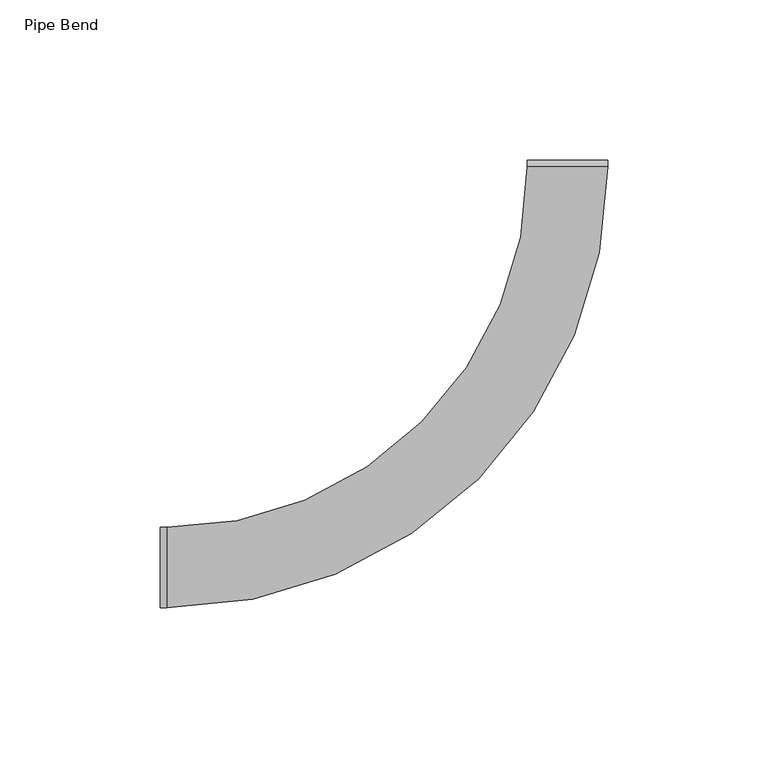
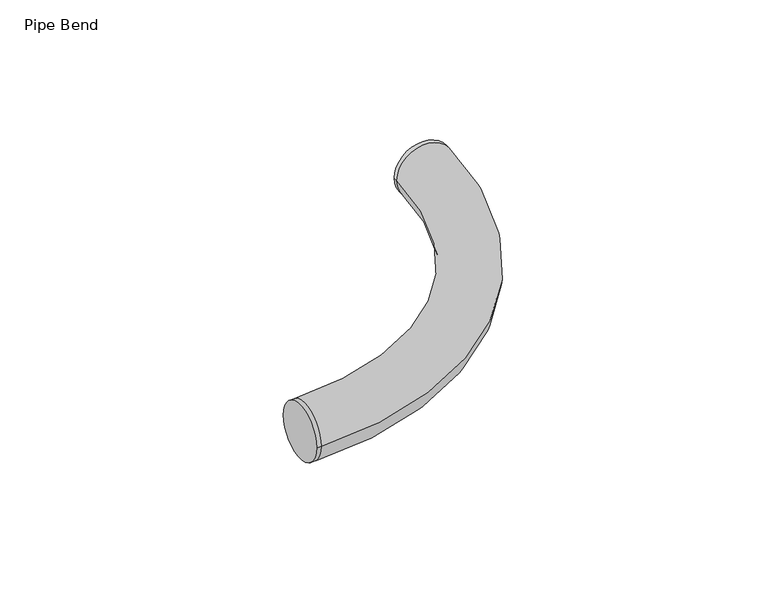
"""IFC4 building model written with IfcOpenShell, lengths in millimetres: pipe fitting geometry, Pipe Bend : Superpipe 2-MAX Pipe bend."""

from ifc_helpers import new_model, si_unit, point, frame, origin, place, context, project, spatial, circle_curve, ellipse_curve, trimmed, source, transform, mapped, element, save
from ifc_brep_helpers import plane_surface, cylinder_surface, revolved_surface, advanced_brep


def pipe_bend_f4e2ce4f(model_context):
    return source(origin(), model_context, "Body", "AdvancedBrep", [
        advanced_brep(
        [(-127.0, -12.5, 0.0), (-127.0, 12.5, 0.0), (-125.0, -12.5, 0.0), (-125.0, 12.5, 0.0), (-12.5, 125.0, 0.0), (12.5, 125.0, 0.0), (0.0, 125.0, 12.5), (0.0, 125.0, -12.5), (12.5, 127.0, 0.0), (-12.5, 127.0, 0.0)],
        [
            (0, 1, circle_curve(frame((-127.0, 0.0, 0.0), z_axis=(-1.0, 0.0, 0.0), x_axis=(0.0, 1.0, 0.0)), 12.5)),
            (1, 0, circle_curve(frame((-127.0, 0.0, 0.0), z_axis=(-1.0, 0.0, 0.0), x_axis=(0.0, 1.0, 0.0)), 12.5)),
            (0, 2),
            (2, 3, circle_curve(frame((-125.0, 0.0, 0.0), z_axis=(-1.0, 0.0, 0.0), x_axis=(0.0, 1.0, 0.0)), 12.5)),
            (3, 1),
            (3, 2, circle_curve(frame((-125.0, 0.0, 0.0), z_axis=(-1.0, 0.0, 0.0), x_axis=(0.0, 1.0, 0.0)), 12.5)),
            (4, 3, circle_curve(frame((-125.0, 125.0, 0.0), z_axis=(0.0, 0.0, -1.0), x_axis=(0.0, -1.0, 0.0)), 112.5)),
            (2, 5, circle_curve(frame((-125.0, 125.0, 0.0), z_axis=(0.0, 0.0, 1.0), x_axis=(0.0, -1.0, 0.0)), 137.5)),
            (5, 6, circle_curve(frame((0.0, 125.0, 0.0), z_axis=(0.0, -1.0, 0.0), x_axis=(-1.0, 0.0, 0.0)), 12.5)),
            (6, 4, circle_curve(frame((0.0, 125.0, 0.0), z_axis=(0.0, -1.0, 0.0), x_axis=(-1.0, 0.0, 0.0)), 12.5)),
            (4, 7, circle_curve(frame((0.0, 125.0, 0.0), z_axis=(0.0, -1.0, 0.0), x_axis=(-1.0, 0.0, 0.0)), 12.5)),
            (7, 5, circle_curve(frame((0.0, 125.0, 0.0), z_axis=(0.0, -1.0, 0.0), x_axis=(-1.0, 0.0, 0.0)), 12.5)),
            (8, 9, circle_curve(frame((0.0, 127.0, 0.0), z_axis=(0.0, 1.0, 0.0), x_axis=(-1.0, 0.0, 0.0)), 12.5)),
            (9, 8, circle_curve(frame((0.0, 127.0, 0.0), z_axis=(0.0, 1.0, 0.0), x_axis=(-1.0, 0.0, 0.0)), 12.5)),
            (9, 4),
            (5, 8),
        ],
        [
            plane_surface(frame((-127.0, 0.0, 0.0), z_axis=(-1.0, 0.0, 0.0), x_axis=(0.0, 0.0, 1.0))),
            cylinder_surface(frame((-127.0, 0.0, 0.0), z_axis=(-1.0, 0.0, 0.0), x_axis=(0.0, 1.0, 0.0)), 12.5),
            revolved_surface(trimmed(ellipse_curve(frame((-125.0, 0.0, 0.0), z_axis=(-1.0, 0.0, 0.0), x_axis=(0.0, 1.0, 0.0)), 12.5, 12.5), [point((-125.0, -12.5, 0.0))], [point((-125.0, 12.5, 0.0))], True, "CARTESIAN"), (-125.0, 125.0, 0.0), (0.0, 0.0, 1.0)),
            revolved_surface(trimmed(ellipse_curve(frame((-125.0, 0.0, 0.0), z_axis=(-1.0, 0.0, 0.0), x_axis=(0.0, 1.0, 0.0)), 12.5, 12.5), [point((-125.0, 12.5, 0.0))], [point((-125.0, -12.5, 0.0))], True, "CARTESIAN"), (-125.0, 125.0, 0.0), (0.0, 0.0, 1.0)),
            plane_surface(frame((0.0, 127.0, 0.0), z_axis=(0.0, 1.0, 0.0), x_axis=(0.0, 0.0, 1.0))),
            cylinder_surface(frame((0.0, 125.0, 0.0), z_axis=(0.0, -1.0, 0.0), x_axis=(-1.0, 0.0, 0.0)), 12.5),
        ],
        [
            (0, [[1, 2]]),
            (1, [[-1, 3, 4, 5]]),
            (1, [[-2, -5, 6, -3]]),
            (2, [[7, -4, 8, 9, 10]]),
            (3, [[-7, 11, 12, -8, -6]]),
            (4, [[13, 14]]),
            (5, [[-14, 15, -10, -9, 16]]),
            (5, [[-13, -16, -12, -11, -15]]),
        ],
    ),
    ])


if __name__ == "__main__":
    model = new_model("IFC4")
    model_context = context("Model", 3, world=origin())
    ifc_project = project(units=[si_unit("LENGTHUNIT", "METRE", prefix="MILLI")], contexts=[model_context])
    site = spatial("IfcSite", under=ifc_project)
    building = spatial("IfcBuilding", under=site)
    placement = place(None, origin())
    pipe_bend_shape = pipe_bend_f4e2ce4f(model_context)
    element("IfcPipeFitting", 1, ObjectType="Pipe Bend : Superpipe 2-MAX Pipe bend", at=placement, inside=building, context=model_context, shape_type="MappedRepresentation", body=[
        mapped(pipe_bend_shape, transform((0.0, 0.0, 0.0), x_axis=(1.0, 0.0, 0.0), y_axis=(0.0, 1.0, 0.0), z_axis=(0.0, 0.0, 1.0))),
    ])
    save(model, "model.ifc")
